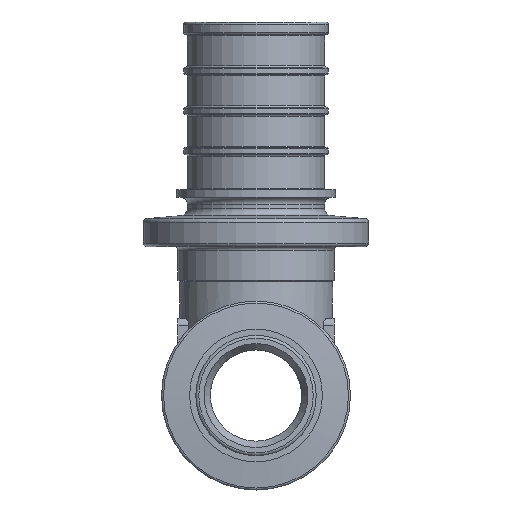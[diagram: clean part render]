
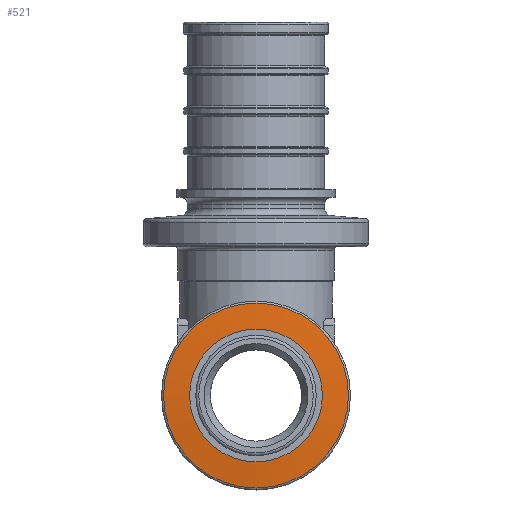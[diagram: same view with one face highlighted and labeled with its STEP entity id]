
A CAD part, front view. The second image highlights one B-rep face of the part: STEP entity #521.
In plain terms, the highlighted conical face has half-angle 85 degrees and reference radius 10.72 mm.
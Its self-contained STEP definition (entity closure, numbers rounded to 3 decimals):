
#521=ADVANCED_FACE('',(#4164,#4166),#4168,.T.);
#4164=FACE_OUTER_BOUND('',#4165,.T.);
#4165=EDGE_LOOP('',(#7008));
#4166=FACE_OUTER_BOUND('',#4167,.T.);
#4167=EDGE_LOOP('',(#7009));
#4168=CONICAL_SURFACE('',#4169,10.719,1.484);
#4169=AXIS2_PLACEMENT_3D('',#4170,#4171,#4172);
#4170=CARTESIAN_POINT('',(0.,-25.595,0.));
#4171=DIRECTION('',(0.,1.,0.));
#4172=DIRECTION('',(-1.,0.,0.));
#7008=ORIENTED_EDGE('',*,*,#9256,.T.);
#7009=ORIENTED_EDGE('',*,*,#9257,.T.);
#9256=EDGE_CURVE('',#10273,#10273,#10274,.T.);
#9257=EDGE_CURVE('',#10275,#10275,#10276,.F.);
#10273=VERTEX_POINT('',#12406);
#10274=CIRCLE('',#12407,8.763);
#10275=VERTEX_POINT('',#12411);
#10276=CIRCLE('',#12412,12.676);
#12406=CARTESIAN_POINT('',(-8.763,-25.766,0.));
#12407=AXIS2_PLACEMENT_3D('',#12408,#12409,#12410);
#12408=CARTESIAN_POINT('',(0.,-25.766,0.));
#12409=DIRECTION('',(0.,1.,0.));
#12410=DIRECTION('',(-1.,0.,0.));
#12411=CARTESIAN_POINT('',(-12.676,-25.424,0.));
#12412=AXIS2_PLACEMENT_3D('',#12413,#12414,#12415);
#12413=CARTESIAN_POINT('',(0.,-25.424,0.));
#12414=DIRECTION('',(0.,1.,0.));
#12415=DIRECTION('',(-1.,0.,0.));
